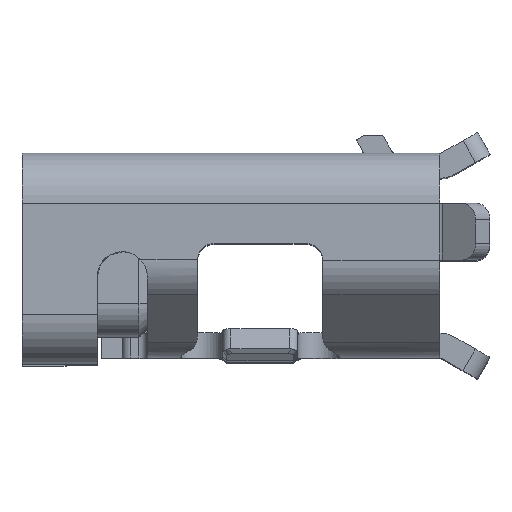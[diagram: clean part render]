
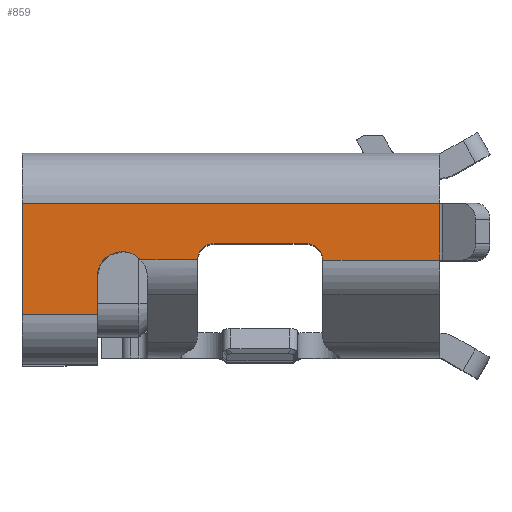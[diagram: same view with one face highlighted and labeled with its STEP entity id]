
A CAD part, top view. The second image highlights one B-rep face of the part: STEP entity #859.
In plain terms, the highlighted planar face has unit normal (0, 0, 1).
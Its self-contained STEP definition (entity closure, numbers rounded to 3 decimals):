
#859=ADVANCED_FACE('',(#2015),#2016,.T.);
#2015=FACE_OUTER_BOUND('',#3547,.T.);
#2016=PLANE('',#3548);
#3547=EDGE_LOOP('',(#6365,#6366,#6367,#6368,#6369,#6370,#6371,#6372,#6373,#6374,#6375,#6376,#6377,#6378));
#3548=AXIS2_PLACEMENT_3D('',#6379,#6380,#6381);
#6365=ORIENTED_EDGE('',*,*,#9562,.T.);
#6366=ORIENTED_EDGE('',*,*,#9532,.F.);
#6367=ORIENTED_EDGE('',*,*,#9283,.T.);
#6368=ORIENTED_EDGE('',*,*,#9919,.T.);
#6369=ORIENTED_EDGE('',*,*,#9915,.F.);
#6370=ORIENTED_EDGE('',*,*,#10180,.F.);
#6371=ORIENTED_EDGE('',*,*,#9647,.F.);
#6372=ORIENTED_EDGE('',*,*,#9428,.T.);
#6373=ORIENTED_EDGE('',*,*,#10181,.T.);
#6374=ORIENTED_EDGE('',*,*,#9943,.T.);
#6375=ORIENTED_EDGE('',*,*,#9941,.T.);
#6376=ORIENTED_EDGE('',*,*,#9362,.T.);
#6377=ORIENTED_EDGE('',*,*,#9416,.T.);
#6378=ORIENTED_EDGE('',*,*,#9912,.T.);
#6379=CARTESIAN_POINT('',(5.08,0.83,7.175));
#6380=DIRECTION('',(0.0,0.0,1.0));
#6381=DIRECTION('',(1.0,0.0,0.0));
#9283=EDGE_CURVE('',#11190,#11187,#11191,.T.);
#9362=EDGE_CURVE('',#11345,#11342,#11346,.T.);
#9416=EDGE_CURVE('',#11342,#11440,#11442,.T.);
#9428=EDGE_CURVE('',#11463,#11461,#11464,.T.);
#9532=EDGE_CURVE('',#11190,#11644,#11645,.T.);
#9562=EDGE_CURVE('',#11691,#11644,#11692,.T.);
#9647=EDGE_CURVE('',#11463,#11581,#11816,.T.);
#9912=EDGE_CURVE('',#11440,#11691,#12199,.T.);
#9915=EDGE_CURVE('',#12201,#12203,#12204,.T.);
#9919=EDGE_CURVE('',#11187,#12203,#12208,.T.);
#9941=EDGE_CURVE('',#12225,#11345,#12242,.T.);
#9943=EDGE_CURVE('',#12244,#12225,#12245,.T.);
#10180=EDGE_CURVE('',#11581,#12201,#12619,.T.);
#10181=EDGE_CURVE('',#11461,#12244,#12620,.T.);
#11187=VERTEX_POINT('',#14012);
#11190=VERTEX_POINT('',#14016);
#11191=CIRCLE('',#14017,0.2);
#11342=VERTEX_POINT('',#14415);
#11345=VERTEX_POINT('',#14419);
#11346=B_SPLINE_CURVE_WITH_KNOTS('',3,(#14420,#14421,#14422,#14423,#14424,#14425,#14426,#14427,#14428,#14429,#14430,#14431,#14432,#14433,#14434,#14435,#14436,#14437,#14438,#14439,#14440,#14441,#14442,#14443,#14444,#14445,#14446,#14447,#14448,#14449,#14450,#14451,#14452,#14453,#14454,#14455,#14456,#14457,#14458,#14459,#14460,#14461,#14462,#14463,#14464,#14465,#14466,#14467,#14468),.UNSPECIFIED.,.F.,.F.,(4,3,3,3,3,3,3,3,3,3,3,3,3,3,3,3,4),(0.0,0.029,0.059,0.088,0.118,0.147,0.177,0.206,0.236,0.265,0.295,0.324,0.353,0.383,0.412,0.442,0.471),.UNSPECIFIED.);
#11440=VERTEX_POINT('',#14640);
#11442=CIRCLE('',#14666,0.3);
#11461=VERTEX_POINT('',#14766);
#11463=VERTEX_POINT('',#14768);
#11464=LINE('',#14769,#14770);
#11581=VERTEX_POINT('',#14940);
#11644=VERTEX_POINT('',#15025);
#11645=LINE('',#15026,#15027);
#11691=VERTEX_POINT('',#15198);
#11692=CIRCLE('',#15199,0.2);
#11816=LINE('',#15470,#15471);
#12199=LINE('',#16104,#16105);
#12201=VERTEX_POINT('',#16107);
#12203=VERTEX_POINT('',#16109);
#12204=LINE('',#16110,#16111);
#12208=LINE('',#16116,#16117);
#12225=VERTEX_POINT('',#16152);
#12242=LINE('',#16174,#16175);
#12244=VERTEX_POINT('',#16177);
#12245=LINE('',#16178,#16179);
#12619=LINE('',#16808,#16809);
#12620=LINE('',#16810,#16811);
#14012=CARTESIAN_POINT('',(3.68,0.95,7.175));
#14016=CARTESIAN_POINT('',(3.48,1.15,7.175));
#14017=AXIS2_PLACEMENT_3D('',#19355,#19356,#19357);
#14415=CARTESIAN_POINT('',(1.28,1.05,7.175));
#14419=CARTESIAN_POINT('',(0.98,0.75,7.175));
#14420=CARTESIAN_POINT('',(0.98,0.75,7.175));
#14421=CARTESIAN_POINT('',(0.98,0.76,7.175));
#14422=CARTESIAN_POINT('',(0.98,0.77,7.175));
#14423=CARTESIAN_POINT('',(0.981,0.779,7.175));
#14424=CARTESIAN_POINT('',(0.982,0.789,7.175));
#14425=CARTESIAN_POINT('',(0.984,0.799,7.175));
#14426=CARTESIAN_POINT('',(0.986,0.809,7.175));
#14427=CARTESIAN_POINT('',(0.988,0.818,7.175));
#14428=CARTESIAN_POINT('',(0.99,0.828,7.175));
#14429=CARTESIAN_POINT('',(0.993,0.837,7.175));
#14430=CARTESIAN_POINT('',(0.996,0.847,7.175));
#14431=CARTESIAN_POINT('',(0.999,0.856,7.175));
#14432=CARTESIAN_POINT('',(1.003,0.865,7.175));
#14433=CARTESIAN_POINT('',(1.007,0.874,7.175));
#14434=CARTESIAN_POINT('',(1.011,0.883,7.175));
#14435=CARTESIAN_POINT('',(1.015,0.891,7.175));
#14436=CARTESIAN_POINT('',(1.02,0.9,7.175));
#14437=CARTESIAN_POINT('',(1.025,0.908,7.175));
#14438=CARTESIAN_POINT('',(1.031,0.917,7.175));
#14439=CARTESIAN_POINT('',(1.036,0.925,7.175));
#14440=CARTESIAN_POINT('',(1.042,0.933,7.175));
#14441=CARTESIAN_POINT('',(1.048,0.94,7.175));
#14442=CARTESIAN_POINT('',(1.054,0.948,7.175));
#14443=CARTESIAN_POINT('',(1.061,0.955,7.175));
#14444=CARTESIAN_POINT('',(1.068,0.962,7.175));
#14445=CARTESIAN_POINT('',(1.075,0.969,7.175));
#14446=CARTESIAN_POINT('',(1.082,0.976,7.175));
#14447=CARTESIAN_POINT('',(1.09,0.982,7.175));
#14448=CARTESIAN_POINT('',(1.097,0.988,7.175));
#14449=CARTESIAN_POINT('',(1.105,0.994,7.175));
#14450=CARTESIAN_POINT('',(1.113,0.999,7.175));
#14451=CARTESIAN_POINT('',(1.122,1.005,7.175));
#14452=CARTESIAN_POINT('',(1.13,1.01,7.175));
#14453=CARTESIAN_POINT('',(1.139,1.015,7.175));
#14454=CARTESIAN_POINT('',(1.147,1.019,7.175));
#14455=CARTESIAN_POINT('',(1.156,1.023,7.175));
#14456=CARTESIAN_POINT('',(1.165,1.027,7.175));
#14457=CARTESIAN_POINT('',(1.174,1.031,7.175));
#14458=CARTESIAN_POINT('',(1.183,1.034,7.175));
#14459=CARTESIAN_POINT('',(1.193,1.037,7.175));
#14460=CARTESIAN_POINT('',(1.202,1.04,7.175));
#14461=CARTESIAN_POINT('',(1.212,1.042,7.175));
#14462=CARTESIAN_POINT('',(1.221,1.044,7.175));
#14463=CARTESIAN_POINT('',(1.231,1.046,7.175));
#14464=CARTESIAN_POINT('',(1.241,1.048,7.175));
#14465=CARTESIAN_POINT('',(1.251,1.049,7.175));
#14466=CARTESIAN_POINT('',(1.26,1.05,7.175));
#14467=CARTESIAN_POINT('',(1.27,1.05,7.175));
#14468=CARTESIAN_POINT('',(1.28,1.05,7.175));
#14640=CARTESIAN_POINT('',(1.502,0.952,7.175));
#14666=AXIS2_PLACEMENT_3D('',#19522,#19523,#19524);
#14766=CARTESIAN_POINT('',(0.08,1.63,7.175));
#14768=CARTESIAN_POINT('',(5.08,1.63,7.175));
#14769=CARTESIAN_POINT('',(1.236,1.63,7.175));
#14770=VECTOR('',#19537,1.0);
#14940=CARTESIAN_POINT('',(5.08,0.95,7.175));
#15025=CARTESIAN_POINT('',(2.38,1.15,7.175));
#15026=CARTESIAN_POINT('',(1.236,1.15,7.175));
#15027=VECTOR('',#19697,1.0);
#15198=CARTESIAN_POINT('',(2.18,0.952,7.175));
#15199=AXIS2_PLACEMENT_3D('',#19719,#19720,#19721);
#15470=CARTESIAN_POINT('',(5.08,0.0,7.175));
#15471=VECTOR('',#19809,1.0);
#16104=CARTESIAN_POINT('',(1.236,0.952,7.175));
#16105=VECTOR('',#20156,1.0);
#16107=CARTESIAN_POINT('',(5.08,0.948,7.175));
#16109=CARTESIAN_POINT('',(3.68,0.948,7.175));
#16110=CARTESIAN_POINT('',(1.236,0.948,7.175));
#16111=VECTOR('',#20160,1.0);
#16116=CARTESIAN_POINT('',(3.68,0.0,7.175));
#16117=VECTOR('',#20165,1.0);
#16152=CARTESIAN_POINT('',(0.98,0.3,7.175));
#16174=CARTESIAN_POINT('',(0.98,0.0,7.175));
#16175=VECTOR('',#20189,1.0);
#16177=CARTESIAN_POINT('',(0.08,0.3,7.175));
#16178=CARTESIAN_POINT('',(1.236,0.3,7.175));
#16179=VECTOR('',#20190,1.0);
#16808=CARTESIAN_POINT('',(5.08,0.0,7.175));
#16809=VECTOR('',#20440,1.0);
#16810=CARTESIAN_POINT('',(0.08,0.0,7.175));
#16811=VECTOR('',#20441,1.0);
#19355=CARTESIAN_POINT('',(3.48,0.95,7.175));
#19356=DIRECTION('',(0.0,0.0,-1.0));
#19357=DIRECTION('',(-1.0,0.0,0.0));
#19522=CARTESIAN_POINT('',(1.28,0.75,7.175));
#19523=DIRECTION('',(0.0,0.0,-1.0));
#19524=DIRECTION('',(-1.0,0.0,0.0));
#19537=DIRECTION('',(-1.0,0.0,0.0));
#19697=DIRECTION('',(-1.0,0.0,0.0));
#19719=CARTESIAN_POINT('',(2.38,0.95,7.175));
#19720=DIRECTION('',(0.0,0.0,-1.0));
#19721=DIRECTION('',(-1.0,0.0,0.0));
#19809=DIRECTION('',(0.0,-1.0,0.0));
#20156=DIRECTION('',(1.0,0.0,0.0));
#20160=DIRECTION('',(-1.0,0.0,0.0));
#20165=DIRECTION('',(0.0,-1.0,0.0));
#20189=DIRECTION('',(0.0,1.0,0.0));
#20190=DIRECTION('',(1.0,0.0,0.0));
#20440=DIRECTION('',(0.0,-1.0,0.0));
#20441=DIRECTION('',(0.0,-1.0,0.0));
